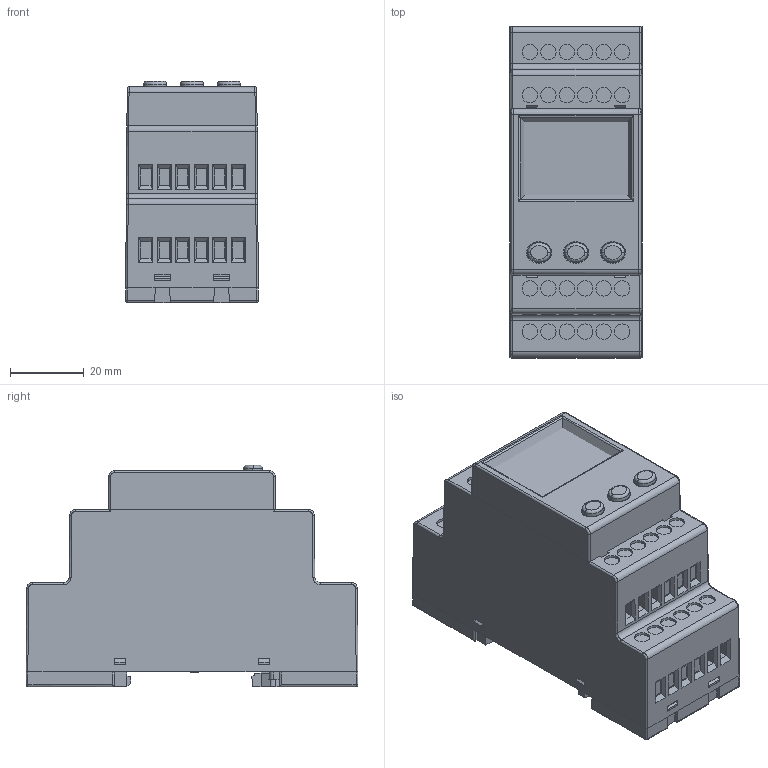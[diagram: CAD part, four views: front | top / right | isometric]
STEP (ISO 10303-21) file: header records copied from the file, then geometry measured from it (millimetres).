
FILE_DESCRIPTION (( 'STEP AP214' ), '1' );
FILE_NAME ('MRU11_MRU11R.STEP', '2024-04-11T06:35:24', ( '' ), ( '' ), 'SwSTEP 2.0', 'SolidWorks 2022', '' );
FILE_SCHEMA (( 'AUTOMOTIVE_DESIGN' ));
Length unit declared in the file: millimetre
Products named in the file (1): MRU11_MRU11R
Bounding box: 36 x 90 x 60 mm (x, y, z)
Volume: 132476 mm3; surface area: 35295.6 mm2
Topology: 1 solids, 5 shells, 1033 faces, 2707 edges, 1733 vertices
Faces by surface type: plane 747, bspline 132, cylinder 117, cone 27, torus 6, sphere 4
Entity records: 39479 total; most frequent: CARTESIAN_POINT 14835, ORIENTED_EDGE 5414, DIRECTION 4389, EDGE_CURVE 2707, LINE 2125, VECTOR 2125, VERTEX_POINT 1733, EDGE_LOOP 1136
